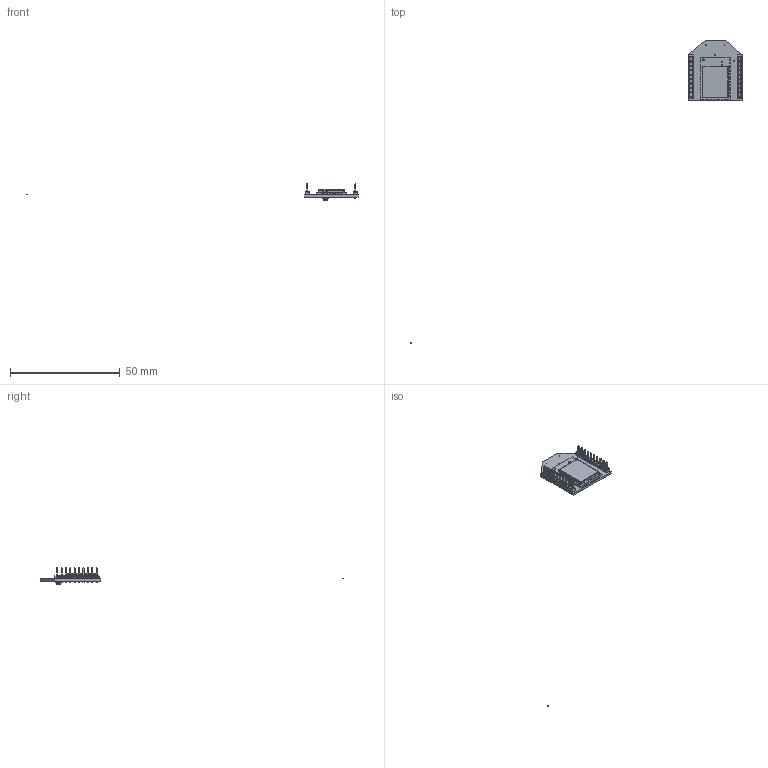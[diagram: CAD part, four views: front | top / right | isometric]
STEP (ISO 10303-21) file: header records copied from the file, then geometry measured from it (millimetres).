
FILE_DESCRIPTION (( 'STEP AP214' ), '1' );
FILE_NAME ('55001998-02-PRT.STEP', '2022-11-30T21:18:40', ( 'Digi User' ), ( 'Digi International' ), 'SwSTEP 2.0', 'SolidWorks 2020', '' );
FILE_SCHEMA (( 'AUTOMOTIVE_DESIGN' ));
Length unit declared in the file: millimetre
Products named in the file (34): User Library-Resistors0201.step; Open CASCADE STEP translator 7.5 2.1.1.step; 18000258_U.FL-R-SMT-1_2; R4_2; P2_3; 55001998-02 base board; Open CASCADE STEP translator 7.5 4.1.1; R1_2; _TMM-110-01-T-S_pins2; User Library-CapacitorCap0201.step; H1.step; Board_4; Board.step; User Library-Resistors0201.step_3; 60001461-01_A.step; L5.step; TMM-110-01-T-S; R2.step; User Library-Resistors0201.step_2; 0201 Ferrite bead.step; User Library-Resistors0201_3; 55001998-02-PRT; C2.step; P1_5; _TMM-110-01-T-S_pins1; 55001924-08.step; User Library-Resistors0201; User Library-Resistors0201_2; _TMM-110-01-T-S_body; P4_4; 55001924-08
Assembly tree (38 placements, depth 6):
  55001998-02-PRT
    55001998-02 base board
      Board_4
        Open CASCADE STEP translator 7.5 4.1.1
      R4_2
        User Library-Resistors0201
        User Library-Resistors0201_3
        User Library-Resistors0201_2
      R1_2
        User Library-Resistors0201
        User Library-Resistors0201_3
        User Library-Resistors0201_2
      P1_5
        TMM-110-01-T-S
          _TMM-110-01-T-S_body
          _TMM-110-01-T-S_pins1
          _TMM-110-01-T-S_pins2
      P2_3
        TMM-110-01-T-S
          _TMM-110-01-T-S_body
          _TMM-110-01-T-S_pins1
          _TMM-110-01-T-S_pins2
      P4_4
        18000258_U.FL-R-SMT-1_2
    55001924-08
      55001924-08.step
        Board.step
          Open CASCADE STEP translator 7.5 2.1.1.step
        L5.step
          0201 Ferrite bead.step
        C2.step
          User Library-CapacitorCap0201.step
        R2.step
          User Library-Resistors0201.step
            User Library-Resistors0201.step_3
            User Library-Resistors0201.step_2
            User Library-Resistors0201.step
        H1.step
          60001461-01_A.step
Bounding box: 151.57 x 138.52 x 7.33 mm (x, y, z)
Volume: 1119.5 mm3; surface area: 3245.6 mm2
Topology: 21 solids, 21 shells, 870 faces, 2118 edges, 1308 vertices
Faces by surface type: plane 597, cylinder 187, bspline 80, cone 6
Entity records: 25632 total; most frequent: CARTESIAN_POINT 4407, ORIENTED_EDGE 3236, DIRECTION 3218, EDGE_CURVE 1618, VECTOR 1200, LINE 1200, VERTEX_POINT 1020, AXIS2_PLACEMENT_3D 1009
